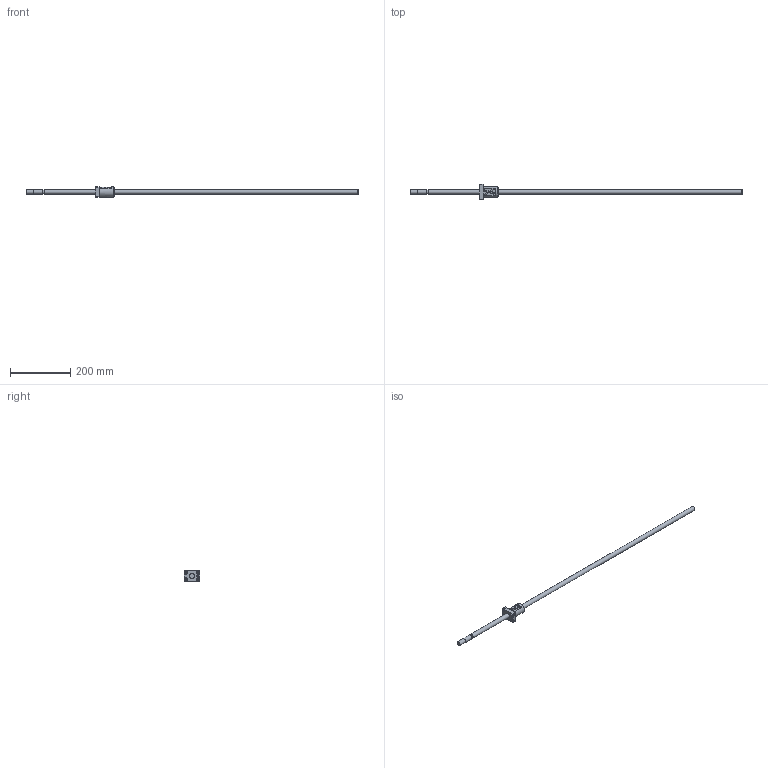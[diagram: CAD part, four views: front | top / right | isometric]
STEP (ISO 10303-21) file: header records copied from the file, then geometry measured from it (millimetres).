
FILE_DESCRIPTION (( 'STEP AP214' ), '1' );
FILE_NAME ('KBS(C)1520-1100.STEP', '2021-07-05T02:18:29', ( '' ), ( '' ), 'SwSTEP 2.0', 'SolidWorks 2019', '' );
FILE_SCHEMA (( 'AUTOMOTIVE_DESIGN' ));
Length unit declared in the file: millimetre
Products named in the file (3): KBS1520; KBS(C)1520-1100; KBS1520-1100
Assembly tree (2 placements, depth 2):
  KBS(C)1520-1100
    KBS1520-1100
    KBS1520
Bounding box: 1100 x 50 x 34 mm (x, y, z)
Volume: 242698.8 mm3; surface area: 67157.2 mm2
Topology: 2 solids, 2 shells, 103 faces, 259 edges, 171 vertices
Faces by surface type: plane 55, cylinder 40, cone 4, torus 4
Full cylindrical faces by diameter (mm): 3.2 x1, 5 x1, 5.5 x4, 5.6 x2, 9.5 x4, 12.5 x1, 14.5 x1, 15 x3, 17 x2, 34 x1
Entity records: 3297 total; most frequent: CARTESIAN_POINT 862, DIRECTION 464, ORIENTED_EDGE 448, EDGE_CURVE 224, AXIS2_PLACEMENT_3D 176, VERTEX_POINT 164, EDGE_LOOP 158, FACE_OUTER_BOUND 127
